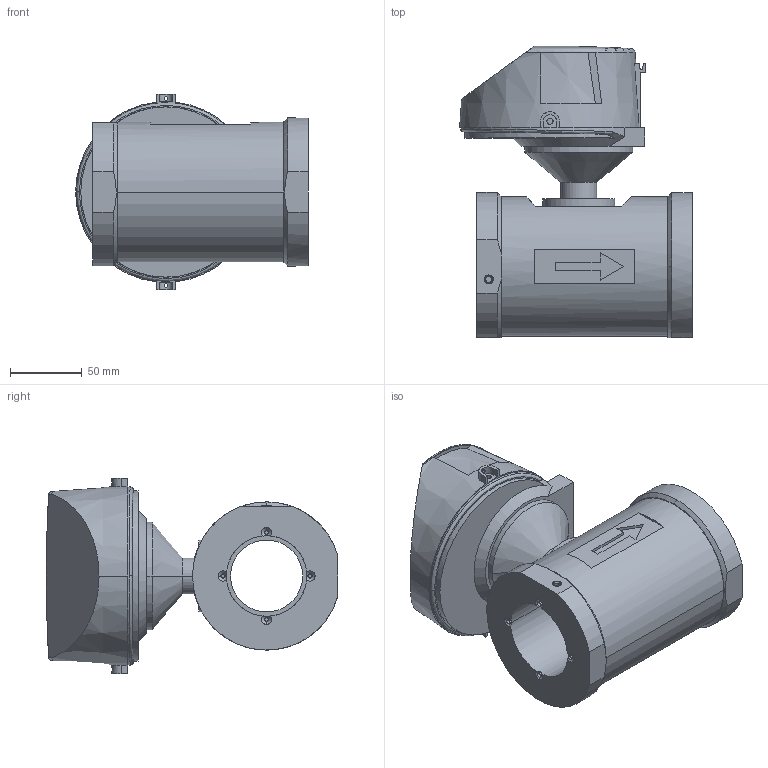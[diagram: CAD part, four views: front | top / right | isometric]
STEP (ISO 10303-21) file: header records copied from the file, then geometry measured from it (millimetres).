
FILE_DESCRIPTION((''),'2;1');
FILE_NAME('12345_00_ASM','2020-11-24T',('solovki'),(''),'CREO PARAMETRIC BY PTC INC, 2018360','CREO PARAMETRIC BY PTC INC, 2018360','');
FILE_SCHEMA(('AUTOMOTIVE_DESIGN { 1 0 10303 214 1 1 1 1 }'));
Length unit declared in the file: millimetre
Products named in the file (5): 401_AF0; 402; 404; 405; 12345_00_ASM
Assembly tree (4 placements, depth 2):
  12345_00_ASM
    401_AF0
    402
    404
    405
Bounding box: 161.8 x 202.7 x 136 mm (x, y, z)
Volume: 1490073.6 mm3; surface area: 197681.5 mm2
Topology: 4 solids, 16 shells, 283 faces, 707 edges, 469 vertices
Faces by surface type: cylinder 129, plane 107, cone 42, bspline 2, sphere 2, torus 1
Entity records: 10176 total; most frequent: CARTESIAN_POINT 2320, DIRECTION 1544, ORIENTED_EDGE 1362, EDGE_CURVE 705, AXIS2_PLACEMENT_3D 626, VERTEX_POINT 469, EDGE_LOOP 350, CIRCLE 332
